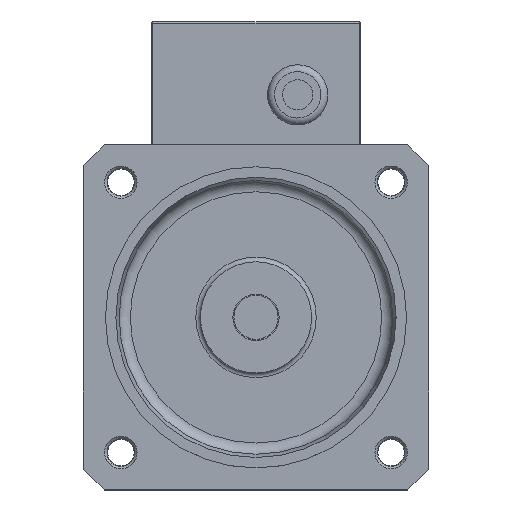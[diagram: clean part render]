
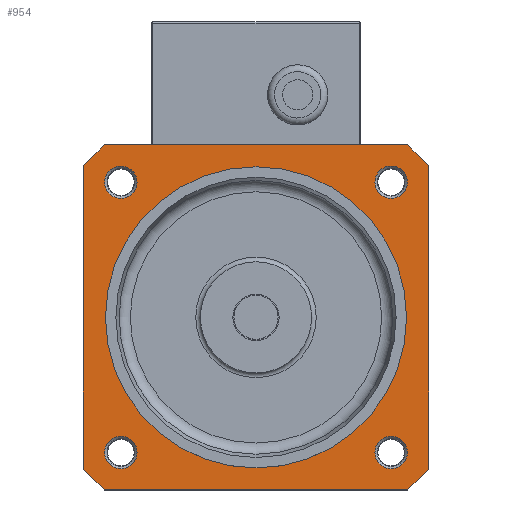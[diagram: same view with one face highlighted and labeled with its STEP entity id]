
A CAD part, top view. The second image highlights one B-rep face of the part: STEP entity #954.
In plain terms, the highlighted planar face has unit normal (0, 0, 1).
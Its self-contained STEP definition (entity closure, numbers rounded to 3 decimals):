
#386=FACE_BOUND('',#2972,.T.);
#387=FACE_BOUND('',#2973,.T.);
#388=FACE_BOUND('',#2974,.T.);
#389=FACE_BOUND('',#2975,.T.);
#390=FACE_BOUND('',#2976,.T.);
#551=PLANE('',#15182);
#954=ADVANCED_FACE('',(#386,#387,#388,#389,#390,#2209),#551,.T.);
#2209=FACE_OUTER_BOUND('',#2977,.T.);
#2972=EDGE_LOOP('',(#5610));
#2973=EDGE_LOOP('',(#5611));
#2974=EDGE_LOOP('',(#5612));
#2975=EDGE_LOOP('',(#5613));
#2976=EDGE_LOOP('',(#5614));
#2977=EDGE_LOOP('',(#5615,#5616,#5617,#5618,#5619,#5620,#5621,#5622));
#3857=CIRCLE('',#15177,6.991);
#3858=CIRCLE('',#15178,7.012);
#3859=CIRCLE('',#15179,6.991);
#3860=CIRCLE('',#15180,7.012);
#3861=CIRCLE('',#15181,65.);
#5610=ORIENTED_EDGE('',*,*,#10832,.T.);
#5611=ORIENTED_EDGE('',*,*,#10833,.T.);
#5612=ORIENTED_EDGE('',*,*,#10834,.T.);
#5613=ORIENTED_EDGE('',*,*,#10835,.T.);
#5614=ORIENTED_EDGE('',*,*,#10836,.F.);
#5615=ORIENTED_EDGE('',*,*,#10837,.F.);
#5616=ORIENTED_EDGE('',*,*,#10838,.T.);
#5617=ORIENTED_EDGE('',*,*,#10839,.F.);
#5618=ORIENTED_EDGE('',*,*,#10840,.T.);
#5619=ORIENTED_EDGE('',*,*,#10841,.F.);
#5620=ORIENTED_EDGE('',*,*,#10842,.T.);
#5621=ORIENTED_EDGE('',*,*,#10843,.F.);
#5622=ORIENTED_EDGE('',*,*,#10844,.T.);
#9196=VERTEX_POINT('',#22011);
#9197=VERTEX_POINT('',#22013);
#9198=VERTEX_POINT('',#22015);
#9199=VERTEX_POINT('',#22017);
#9200=VERTEX_POINT('',#22019);
#9201=VERTEX_POINT('',#22021);
#9202=VERTEX_POINT('',#22022);
#9203=VERTEX_POINT('',#22024);
#9204=VERTEX_POINT('',#22026);
#9205=VERTEX_POINT('',#22028);
#9206=VERTEX_POINT('',#22030);
#9207=VERTEX_POINT('',#22032);
#9208=VERTEX_POINT('',#22034);
#10832=EDGE_CURVE('',#9196,#9196,#3857,.T.);
#10833=EDGE_CURVE('',#9197,#9197,#3858,.T.);
#10834=EDGE_CURVE('',#9198,#9198,#3859,.T.);
#10835=EDGE_CURVE('',#9199,#9199,#3860,.T.);
#10836=EDGE_CURVE('',#9200,#9200,#3861,.T.);
#10837=EDGE_CURVE('',#9201,#9202,#12763,.T.);
#10838=EDGE_CURVE('',#9201,#9203,#12764,.T.);
#10839=EDGE_CURVE('',#9204,#9203,#12765,.T.);
#10840=EDGE_CURVE('',#9204,#9205,#12766,.T.);
#10841=EDGE_CURVE('',#9206,#9205,#12767,.T.);
#10842=EDGE_CURVE('',#9206,#9207,#12768,.T.);
#10843=EDGE_CURVE('',#9208,#9207,#12769,.T.);
#10844=EDGE_CURVE('',#9208,#9202,#12770,.T.);
#12763=LINE('',#22020,#13927);
#12764=LINE('',#22023,#13928);
#12765=LINE('',#22025,#13929);
#12766=LINE('',#22027,#13930);
#12767=LINE('',#22029,#13931);
#12768=LINE('',#22031,#13932);
#12769=LINE('',#22033,#13933);
#12770=LINE('',#22035,#13934);
#13927=VECTOR('',#17600,1.);
#13928=VECTOR('',#17601,1.);
#13929=VECTOR('',#17602,1.);
#13930=VECTOR('',#17603,1.);
#13931=VECTOR('',#17604,1.);
#13932=VECTOR('',#17605,1.);
#13933=VECTOR('',#17606,1.);
#13934=VECTOR('',#17607,1.);
#15177=AXIS2_PLACEMENT_3D('',#22010,#17590,#17591);
#15178=AXIS2_PLACEMENT_3D('',#22012,#17592,#17593);
#15179=AXIS2_PLACEMENT_3D('',#22014,#17594,#17595);
#15180=AXIS2_PLACEMENT_3D('',#22016,#17596,#17597);
#15181=AXIS2_PLACEMENT_3D('',#22018,#17598,#17599);
#15182=AXIS2_PLACEMENT_3D('',#22036,#17608,#17609);
#17590=DIRECTION('',(0.,0.,-1.));
#17591=DIRECTION('',(1.,0.,0.));
#17592=DIRECTION('',(0.,0.,-1.));
#17593=DIRECTION('',(1.,0.,0.));
#17594=DIRECTION('',(0.,0.,-1.));
#17595=DIRECTION('',(1.,0.,0.));
#17596=DIRECTION('',(0.,0.,-1.));
#17597=DIRECTION('',(1.,0.,0.));
#17598=DIRECTION('',(0.,0.,1.));
#17599=DIRECTION('',(1.,0.,0.));
#17600=DIRECTION('',(0.,1.,0.));
#17601=DIRECTION('',(0.707,-0.707,0.));
#17602=DIRECTION('',(-1.,0.,0.));
#17603=DIRECTION('',(0.707,0.707,0.));
#17604=DIRECTION('',(0.,-1.,0.));
#17605=DIRECTION('',(-0.707,0.707,0.));
#17606=DIRECTION('',(1.,0.,0.));
#17607=DIRECTION('',(-0.707,-0.707,0.));
#17608=DIRECTION('',(0.,0.,1.));
#17609=DIRECTION('',(1.,0.,0.));
#22010=CARTESIAN_POINT('',(132.836,132.836,12.));
#22011=CARTESIAN_POINT('',(139.827,132.836,12.));
#22012=CARTESIAN_POINT('',(132.836,16.164,12.));
#22013=CARTESIAN_POINT('',(139.848,16.164,12.));
#22014=CARTESIAN_POINT('',(16.164,16.164,12.));
#22015=CARTESIAN_POINT('',(23.155,16.164,12.));
#22016=CARTESIAN_POINT('',(16.164,132.836,12.));
#22017=CARTESIAN_POINT('',(23.175,132.836,12.));
#22018=CARTESIAN_POINT('',(74.5,74.5,12.));
#22019=CARTESIAN_POINT('',(139.5,74.5,12.));
#22020=CARTESIAN_POINT('',(0.,74.5,12.));
#22021=CARTESIAN_POINT('',(0.,8.99,12.));
#22022=CARTESIAN_POINT('',(0.,140.01,12.));
#22023=CARTESIAN_POINT('',(4.495,4.495,12.));
#22024=CARTESIAN_POINT('',(8.99,0.,12.));
#22025=CARTESIAN_POINT('',(74.5,0.,12.));
#22026=CARTESIAN_POINT('',(140.01,0.,12.));
#22027=CARTESIAN_POINT('',(144.505,4.495,12.));
#22028=CARTESIAN_POINT('',(149.,8.99,12.));
#22029=CARTESIAN_POINT('',(149.,74.5,12.));
#22030=CARTESIAN_POINT('',(149.,140.01,12.));
#22031=CARTESIAN_POINT('',(144.505,144.505,12.));
#22032=CARTESIAN_POINT('',(140.01,149.,12.));
#22033=CARTESIAN_POINT('',(74.5,149.,12.));
#22034=CARTESIAN_POINT('',(8.99,149.,12.));
#22035=CARTESIAN_POINT('',(4.495,144.505,12.));
#22036=CARTESIAN_POINT('',(74.5,74.5,12.));
